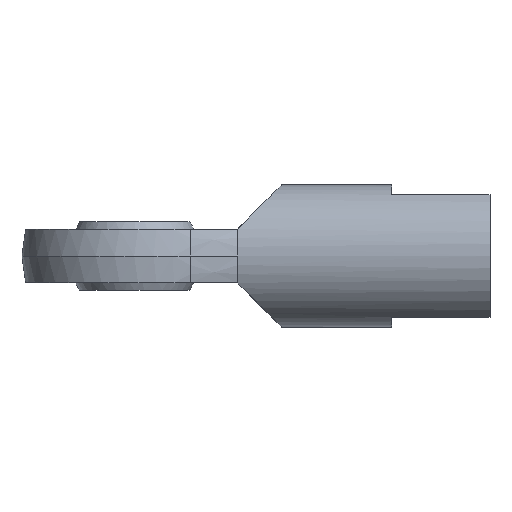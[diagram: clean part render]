
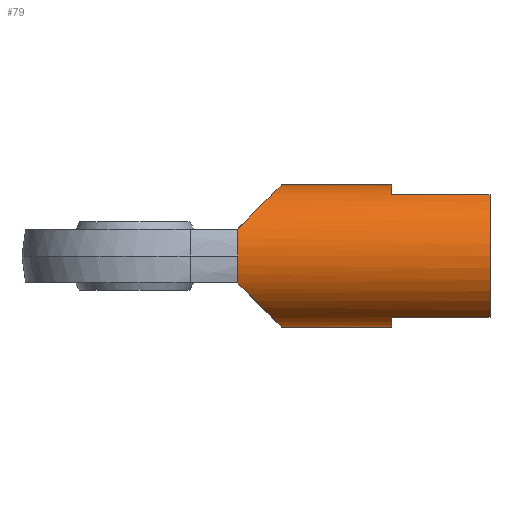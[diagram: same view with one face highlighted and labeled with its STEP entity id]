
A CAD part, front view. The second image highlights one B-rep face of the part: STEP entity #79.
In plain terms, the highlighted cylindrical face has radius 29 mm (diameter 58 mm), a partial arc.
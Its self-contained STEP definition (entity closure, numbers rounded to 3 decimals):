
#1 = VERTEX_POINT ( 'NONE', #1634 ) ;
#2 = ORIENTED_EDGE ( 'NONE', *, *, #12, .F. ) ;
#3 = VERTEX_POINT ( 'NONE', #1638 ) ;
#8 = VERTEX_POINT ( 'NONE', #507 ) ;
#9 = EDGE_CURVE ( 'NONE', #3, #8, #506, .T. ) ;
#10 = ORIENTED_EDGE ( 'NONE', *, *, #9, .F. ) ;
#11 = ORIENTED_EDGE ( 'NONE', *, *, #14, .F. ) ;
#12 = EDGE_CURVE ( 'NONE', #13, #1, #502, .T. ) ;
#13 = VERTEX_POINT ( 'NONE', #498 ) ;
#14 = EDGE_CURVE ( 'NONE', #8, #13, #497, .T. ) ;
#15 = ORIENTED_EDGE ( 'NONE', *, *, #19, .F. ) ;
#19 = EDGE_CURVE ( 'NONE', #1, #375, #487, .T. ) ;
#44 = ORIENTED_EDGE ( 'NONE', *, *, #47, .F. ) ;
#47 = EDGE_CURVE ( 'NONE', #248, #3, #543, .T. ) ;
#64 = ORIENTED_EDGE ( 'NONE', *, *, #235, .T. ) ;
#65 = ORIENTED_EDGE ( 'NONE', *, *, #377, .T. ) ;
#70 = VERTEX_POINT ( 'NONE', #603 ) ;
#71 = EDGE_CURVE ( 'NONE', #207, #178, #645, .T. ) ;
#72 = ORIENTED_EDGE ( 'NONE', *, *, #71, .F. ) ;
#73 = ORIENTED_EDGE ( 'NONE', *, *, #247, .F. ) ;
#74 = EDGE_CURVE ( 'NONE', #70, #172, #640, .T. ) ;
#75 = ORIENTED_EDGE ( 'NONE', *, *, #74, .T. ) ;
#76 = ORIENTED_EDGE ( 'NONE', *, *, #77, .F. ) ;
#77 = EDGE_CURVE ( 'NONE', #70, #244, #635, .T. ) ;
#79 = ADVANCED_FACE ( 'NONE', ( #675 ), #674, .T. ) ;
#80 = EDGE_LOOP ( 'NONE', ( #73, #76, #75, #64, #72, #65, #15, #2, #11, #10, #44 ) ) ;
#172 = VERTEX_POINT ( 'NONE', #779 ) ;
#178 = VERTEX_POINT ( 'NONE', #771 ) ;
#207 = VERTEX_POINT ( 'NONE', #824 ) ;
#235 = EDGE_CURVE ( 'NONE', #172, #178, #904, .T. ) ;
#244 = VERTEX_POINT ( 'NONE', #938 ) ;
#247 = EDGE_CURVE ( 'NONE', #244, #248, #931, .T. ) ;
#248 = VERTEX_POINT ( 'NONE', #927 ) ;
#375 = VERTEX_POINT ( 'NONE', #1116 ) ;
#377 = EDGE_CURVE ( 'NONE', #207, #375, #1115, .T. ) ;
#483 = DIRECTION ( 'NONE',  ( 0., 0., 1. ) ) ;
#484 = DIRECTION ( 'NONE',  ( 1., 0., 0. ) ) ;
#485 = CARTESIAN_POINT ( 'NONE',  ( 105., 0., 0. ) ) ;
#486 = AXIS2_PLACEMENT_3D ( 'NONE', #485, #484, #483 ) ;
#487 = CIRCLE ( 'NONE', #486, 29. ) ;
#493 = DIRECTION ( 'NONE',  ( 0., 0., -1. ) ) ;
#494 = DIRECTION ( 'NONE',  ( 1., 0., 0. ) ) ;
#495 = CARTESIAN_POINT ( 'NONE',  ( 145., 0., 0. ) ) ;
#496 = AXIS2_PLACEMENT_3D ( 'NONE', #495, #494, #493 ) ;
#497 = CIRCLE ( 'NONE', #496, 29. ) ;
#498 = CARTESIAN_POINT ( 'NONE',  ( 145., -14.697, -25. ) ) ;
#499 = DIRECTION ( 'NONE',  ( -1., 0., 0. ) ) ;
#500 = VECTOR ( 'NONE', #499, 1000. ) ;
#501 = CARTESIAN_POINT ( 'NONE',  ( 42., -14.697, -25. ) ) ;
#502 = LINE ( 'NONE', #501, #500 ) ;
#503 = DIRECTION ( 'NONE',  ( 1., 0., 0. ) ) ;
#504 = VECTOR ( 'NONE', #503, 1000. ) ;
#505 = CARTESIAN_POINT ( 'NONE',  ( 42., -14.697, 25. ) ) ;
#506 = LINE ( 'NONE', #505, #504 ) ;
#507 = CARTESIAN_POINT ( 'NONE',  ( 145., -14.697, 25. ) ) ;
#543 = CIRCLE ( 'NONE', #599, 29. ) ;
#596 = DIRECTION ( 'NONE',  ( 0., 0., 1. ) ) ;
#597 = DIRECTION ( 'NONE',  ( 1., 0., 0. ) ) ;
#598 = CARTESIAN_POINT ( 'NONE',  ( 105., 0., 0. ) ) ;
#599 = AXIS2_PLACEMENT_3D ( 'NONE', #598, #597, #596 ) ;
#603 = CARTESIAN_POINT ( 'NONE',  ( 42., -26.833, 11. ) ) ;
#631 = CARTESIAN_POINT ( 'NONE',  ( 60., 0., 29. ) ) ;
#632 = CARTESIAN_POINT ( 'NONE',  ( 60., -12.143, 29. ) ) ;
#633 = CARTESIAN_POINT ( 'NONE',  ( 53.235, -22.227, 22.235 ) ) ;
#634 = CARTESIAN_POINT ( 'NONE',  ( 42., -26.833, 11. ) ) ;
#635 =( BOUNDED_CURVE ( )  B_SPLINE_CURVE ( 3, ( #634, #633, #632, #631 ),
 .UNSPECIFIED., .F., .F. ) 
 B_SPLINE_CURVE_WITH_KNOTS ( ( 4, 4 ),
 ( 5.101, 6.283 ),
 .UNSPECIFIED. ) 
 CURVE ( )  GEOMETRIC_REPRESENTATION_ITEM ( )  RATIONAL_B_SPLINE_CURVE ( ( 1., 0.887, 0.887, 1. ) ) 
 REPRESENTATION_ITEM ( '' )  );
#636 = DIRECTION ( 'NONE',  ( 0., 1., 0. ) ) ;
#637 = DIRECTION ( 'NONE',  ( 1., 0., 0. ) ) ;
#638 = CARTESIAN_POINT ( 'NONE',  ( 42., 0., 0. ) ) ;
#639 = AXIS2_PLACEMENT_3D ( 'NONE', #638, #637, #636 ) ;
#640 = CIRCLE ( 'NONE', #639, 29. ) ;
#641 = CARTESIAN_POINT ( 'NONE',  ( 42., -26.833, -11. ) ) ;
#642 = CARTESIAN_POINT ( 'NONE',  ( 53.235, -22.227, -22.235 ) ) ;
#643 = CARTESIAN_POINT ( 'NONE',  ( 60., -12.143, -29. ) ) ;
#644 = CARTESIAN_POINT ( 'NONE',  ( 60., 0., -29. ) ) ;
#645 =( BOUNDED_CURVE ( )  B_SPLINE_CURVE ( 3, ( #644, #643, #642, #641 ),
 .UNSPECIFIED., .F., .T. ) 
 B_SPLINE_CURVE_WITH_KNOTS ( ( 4, 4 ),
 ( 0., 1.182 ),
 .UNSPECIFIED. ) 
 CURVE ( )  GEOMETRIC_REPRESENTATION_ITEM ( )  RATIONAL_B_SPLINE_CURVE ( ( 1., 0.887, 0.887, 1. ) ) 
 REPRESENTATION_ITEM ( '' )  );
#669 = DIRECTION ( 'NONE',  ( 0., 0., -1. ) ) ;
#670 = DIRECTION ( 'NONE',  ( 1., 0., 0. ) ) ;
#671 = AXIS2_PLACEMENT_3D ( 'NONE', #673, #670, #669 ) ;
#673 = CARTESIAN_POINT ( 'NONE',  ( 42., 0., 0. ) ) ;
#674 = CYLINDRICAL_SURFACE ( 'NONE', #671, 29. ) ;
#675 = FACE_OUTER_BOUND ( 'NONE', #80, .T. ) ;
#771 = CARTESIAN_POINT ( 'NONE',  ( 42., -26.833, -11. ) ) ;
#779 = CARTESIAN_POINT ( 'NONE',  ( 42., -29., 0. ) ) ;
#824 = CARTESIAN_POINT ( 'NONE',  ( 60., 0., -29. ) ) ;
#900 = DIRECTION ( 'NONE',  ( 0., 1., 0. ) ) ;
#901 = DIRECTION ( 'NONE',  ( 1., 0., 0. ) ) ;
#902 = CARTESIAN_POINT ( 'NONE',  ( 42., 0., 0. ) ) ;
#903 = AXIS2_PLACEMENT_3D ( 'NONE', #902, #901, #900 ) ;
#904 = CIRCLE ( 'NONE', #903, 29. ) ;
#927 = CARTESIAN_POINT ( 'NONE',  ( 105., 0., 29. ) ) ;
#928 = DIRECTION ( 'NONE',  ( 1., 0., 0. ) ) ;
#929 = VECTOR ( 'NONE', #928, 1000. ) ;
#930 = CARTESIAN_POINT ( 'NONE',  ( 42., 0., 29. ) ) ;
#931 = LINE ( 'NONE', #930, #929 ) ;
#938 = CARTESIAN_POINT ( 'NONE',  ( 60., 0., 29. ) ) ;
#1112 = DIRECTION ( 'NONE',  ( 1., 0., 0. ) ) ;
#1113 = VECTOR ( 'NONE', #1112, 1000. ) ;
#1114 = CARTESIAN_POINT ( 'NONE',  ( 42., 0., -29. ) ) ;
#1115 = LINE ( 'NONE', #1114, #1113 ) ;
#1116 = CARTESIAN_POINT ( 'NONE',  ( 105., 0., -29. ) ) ;
#1634 = CARTESIAN_POINT ( 'NONE',  ( 105., -14.697, -25. ) ) ;
#1638 = CARTESIAN_POINT ( 'NONE',  ( 105., -14.697, 25. ) ) ;
